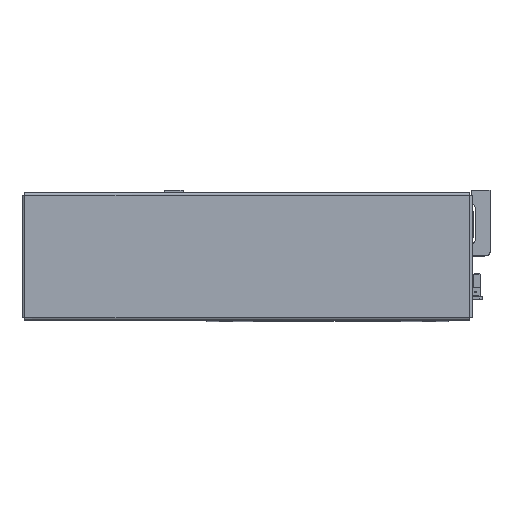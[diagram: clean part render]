
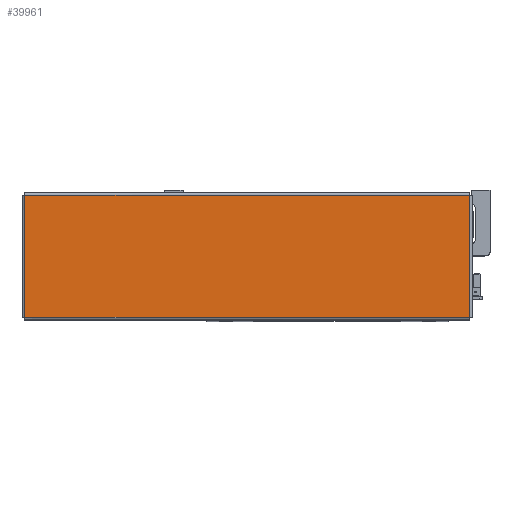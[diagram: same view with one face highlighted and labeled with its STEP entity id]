
A CAD part, top view. The second image highlights one B-rep face of the part: STEP entity #39961.
In plain terms, the highlighted planar face has unit normal (0, 0, 1) as drawn and (0, -1, 0) by its records, which use the part's own axes.
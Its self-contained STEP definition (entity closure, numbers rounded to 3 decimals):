
#2277 = EDGE_CURVE ( 'NONE', #39088, #39170, #19991, .T. ) ;
#2283 = EDGE_CURVE ( 'NONE', #39170, #39161, #20032, .T. ) ;
#2328 = EDGE_CURVE ( 'NONE', #39194, #39088, #20151, .T. ) ;
#2378 = EDGE_CURVE ( 'NONE', #39161, #39194, #20175, .T. ) ;
#3912 = EDGE_LOOP ( 'NONE', ( #20844, #20806, #20827, #20781 ) ) ;
#6421 = AXIS2_PLACEMENT_3D ( 'NONE', #17833, #17798, #17782 ) ;
#14348 = FACE_OUTER_BOUND ( 'NONE', #3912, .T. ) ;
#16390 = CARTESIAN_POINT ( 'NONE',  ( -154.013, -1.2, -42.263 ) ) ;
#16453 = CARTESIAN_POINT ( 'NONE',  ( 154.013, -1.2, -42.263 ) ) ;
#16570 = CARTESIAN_POINT ( 'NONE',  ( -154.013, -1.2, 42.263 ) ) ;
#16579 = CARTESIAN_POINT ( 'NONE',  ( 154.013, -1.2, 42.263 ) ) ;
#17781 = PLANE ( 'NONE',  #6421 ) ;
#17782 = DIRECTION ( 'NONE',  ( 0., 0., 1. ) ) ;
#17798 = DIRECTION ( 'NONE',  ( 0., 1., 0. ) ) ;
#17833 = CARTESIAN_POINT ( 'NONE',  ( 0., -1.2, 0. ) ) ;
#19991 = LINE ( 'NONE', #21125, #19992 ) ;
#19992 = VECTOR ( 'NONE', #21109, 1000. ) ;
#20032 = LINE ( 'NONE', #21115, #20042 ) ;
#20042 = VECTOR ( 'NONE', #21146, 1000. ) ;
#20122 = VECTOR ( 'NONE', #21254, 1000. ) ;
#20151 = LINE ( 'NONE', #21247, #20122 ) ;
#20175 = LINE ( 'NONE', #21366, #20176 ) ;
#20176 = VECTOR ( 'NONE', #21356, 1000. ) ;
#20781 = ORIENTED_EDGE ( 'NONE', *, *, #2277, .T. ) ;
#20806 = ORIENTED_EDGE ( 'NONE', *, *, #2378, .T. ) ;
#20827 = ORIENTED_EDGE ( 'NONE', *, *, #2328, .T. ) ;
#20844 = ORIENTED_EDGE ( 'NONE', *, *, #2283, .T. ) ;
#21109 = DIRECTION ( 'NONE',  ( 1., 0., 0. ) ) ;
#21115 = CARTESIAN_POINT ( 'NONE',  ( 154.013, -1.2, -42.293 ) ) ;
#21125 = CARTESIAN_POINT ( 'NONE',  ( -154.043, -1.2, -42.263 ) ) ;
#21146 = DIRECTION ( 'NONE',  ( 0., 0., 1. ) ) ;
#21247 = CARTESIAN_POINT ( 'NONE',  ( -154.013, -1.2, 42.293 ) ) ;
#21254 = DIRECTION ( 'NONE',  ( 0., 0., -1. ) ) ;
#21356 = DIRECTION ( 'NONE',  ( -1., 0., 0. ) ) ;
#21366 = CARTESIAN_POINT ( 'NONE',  ( 154.043, -1.2, 42.263 ) ) ;
#39088 = VERTEX_POINT ( 'NONE', #16390 ) ;
#39161 = VERTEX_POINT ( 'NONE', #16579 ) ;
#39170 = VERTEX_POINT ( 'NONE', #16453 ) ;
#39194 = VERTEX_POINT ( 'NONE', #16570 ) ;
#39961 = ADVANCED_FACE ( 'NONE', ( #14348 ), #17781, .F. ) ;
